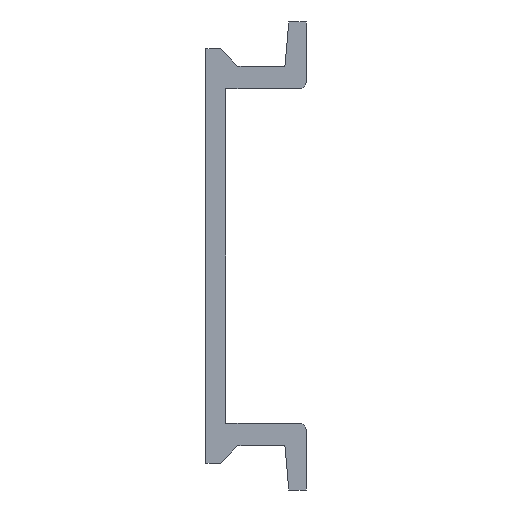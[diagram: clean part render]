
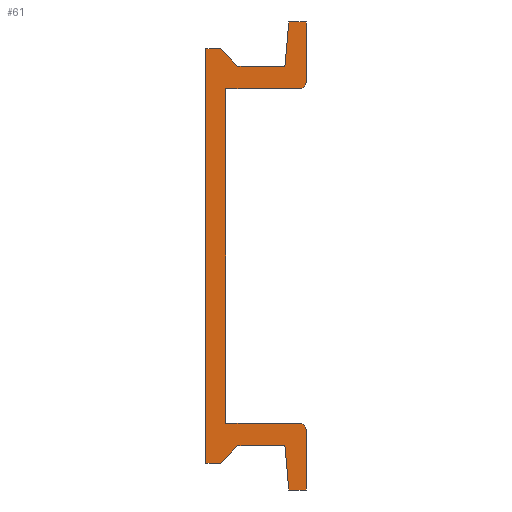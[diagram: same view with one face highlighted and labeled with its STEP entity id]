
A CAD part, left-side view. The second image highlights one B-rep face of the part: STEP entity #61.
In plain terms, the highlighted planar face has unit normal (-1, 0, 0).
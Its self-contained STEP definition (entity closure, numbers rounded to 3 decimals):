
#61=ADVANCED_FACE('',(#385),#384,.F.);
#384=PLANE('',#1280);
#385=FACE_OUTER_BOUND('',#1281,.T.);
#1277=CARTESIAN_POINT('',(0.,-8.25,21.));
#1278=DIRECTION('',(1.,0.,0.));
#1279=DIRECTION('',(0.,0.,-1.));
#1280=AXIS2_PLACEMENT_3D('',#1277,#1278,#1279);
#1281=EDGE_LOOP('',(#1902,#1903,#1904,#1905,#1906,#1907,#1908,#1909,#1910,#1911,#1912,#1913,#1914,#1915,#1916,#1917,#1918,#1919));
#1902=ORIENTED_EDGE('',*,*,#2223,.T.);
#1903=ORIENTED_EDGE('',*,*,#2227,.T.);
#1904=ORIENTED_EDGE('',*,*,#2423,.T.);
#1905=ORIENTED_EDGE('',*,*,#2420,.T.);
#1906=ORIENTED_EDGE('',*,*,#2417,.T.);
#1907=ORIENTED_EDGE('',*,*,#2414,.T.);
#1908=ORIENTED_EDGE('',*,*,#2411,.T.);
#1909=ORIENTED_EDGE('',*,*,#2408,.T.);
#1910=ORIENTED_EDGE('',*,*,#2405,.T.);
#1911=ORIENTED_EDGE('',*,*,#2402,.T.);
#1912=ORIENTED_EDGE('',*,*,#2325,.T.);
#1913=ORIENTED_EDGE('',*,*,#2322,.T.);
#1914=ORIENTED_EDGE('',*,*,#2319,.T.);
#1915=ORIENTED_EDGE('',*,*,#2316,.T.);
#1916=ORIENTED_EDGE('',*,*,#2313,.T.);
#1917=ORIENTED_EDGE('',*,*,#2310,.T.);
#1918=ORIENTED_EDGE('',*,*,#2307,.T.);
#1919=ORIENTED_EDGE('',*,*,#2304,.T.);
#2223=EDGE_CURVE('',#2546,#2547,#2548,.T.);
#2227=EDGE_CURVE('',#2547,#2574,#2575,.T.);
#2304=EDGE_CURVE('',#3111,#2546,#3112,.T.);
#2307=EDGE_CURVE('',#3131,#3111,#3132,.T.);
#2310=EDGE_CURVE('',#3151,#3131,#3152,.T.);
#2313=EDGE_CURVE('',#3171,#3151,#3172,.T.);
#2316=EDGE_CURVE('',#3191,#3171,#3192,.T.);
#2319=EDGE_CURVE('',#3211,#3191,#3212,.T.);
#2322=EDGE_CURVE('',#3231,#3211,#3232,.T.);
#2325=EDGE_CURVE('',#3251,#3231,#3252,.T.);
#2402=EDGE_CURVE('',#3788,#3251,#3789,.T.);
#2405=EDGE_CURVE('',#3808,#3788,#3809,.T.);
#2408=EDGE_CURVE('',#3828,#3808,#3829,.T.);
#2411=EDGE_CURVE('',#3848,#3828,#3849,.T.);
#2414=EDGE_CURVE('',#3868,#3848,#3869,.T.);
#2417=EDGE_CURVE('',#3888,#3868,#3889,.T.);
#2420=EDGE_CURVE('',#3908,#3888,#3909,.T.);
#2423=EDGE_CURVE('',#2574,#3908,#3928,.T.);
#2546=VERTEX_POINT('',#4407);
#2547=VERTEX_POINT('',#4408);
#2548=LINE('',#4409,#4410);
#2574=VERTEX_POINT('',#4423);
#2575=LINE('',#4424,#4425);
#3111=VERTEX_POINT('',#4766);
#3112=CIRCLE('',#4770,0.5);
#3131=VERTEX_POINT('',#4779);
#3132=LINE('',#4780,#4781);
#3151=VERTEX_POINT('',#4790);
#3152=LINE('',#4791,#4792);
#3171=VERTEX_POINT('',#4801);
#3172=LINE('',#4802,#4803);
#3191=VERTEX_POINT('',#4812);
#3192=LINE('',#4813,#4814);
#3211=VERTEX_POINT('',#4823);
#3212=LINE('',#4824,#4825);
#3231=VERTEX_POINT('',#4834);
#3232=LINE('',#4835,#4836);
#3251=VERTEX_POINT('',#4845);
#3252=LINE('',#4846,#4847);
#3788=VERTEX_POINT('',#5188);
#3789=LINE('',#5189,#5190);
#3808=VERTEX_POINT('',#5199);
#3809=LINE('',#5200,#5201);
#3828=VERTEX_POINT('',#5210);
#3829=LINE('',#5211,#5212);
#3848=VERTEX_POINT('',#5221);
#3849=LINE('',#5222,#5223);
#3868=VERTEX_POINT('',#5232);
#3869=LINE('',#5233,#5234);
#3888=VERTEX_POINT('',#5243);
#3889=LINE('',#5244,#5245);
#3908=VERTEX_POINT('',#5254);
#3909=CIRCLE('',#5258,0.5);
#3928=LINE('',#5267,#5268);
#4407=CARTESIAN_POINT('',(0.,-7.,-12.5));
#4408=CARTESIAN_POINT('',(0.,-1.5,-12.5));
#4409=CARTESIAN_POINT('',(0.,-7.,-12.5));
#4410=VECTOR('',#4411,5.5);
#4411=DIRECTION('',(0.,1.,0.));
#4423=CARTESIAN_POINT('',(0.,-1.5,12.5));
#4424=CARTESIAN_POINT('',(0.,-1.5,-12.5));
#4425=VECTOR('',#4426,25.);
#4426=DIRECTION('',(0.,0.,1.));
#4766=CARTESIAN_POINT('',(0.,-7.5,-13.));
#4767=CARTESIAN_POINT('',(0.,-7.,-13.));
#4768=DIRECTION('',(-1.,0.,0.));
#4769=DIRECTION('',(0.,0.,1.));
#4770=AXIS2_PLACEMENT_3D('',#4767,#4768,#4769);
#4779=CARTESIAN_POINT('',(0.,-7.5,-17.5));
#4780=CARTESIAN_POINT('',(0.,-7.5,-17.5));
#4781=VECTOR('',#4782,4.5);
#4782=DIRECTION('',(0.,0.,1.));
#4790=CARTESIAN_POINT('',(0.,-6.2,-17.5));
#4791=CARTESIAN_POINT('',(0.,-6.2,-17.5));
#4792=VECTOR('',#4793,1.3);
#4793=DIRECTION('',(0.,-1.,0.));
#4801=CARTESIAN_POINT('',(0.,-5.911,-14.2));
#4802=CARTESIAN_POINT('',(0.,-5.911,-14.2));
#4803=VECTOR('',#4804,3.313);
#4804=DIRECTION('',(0.,-0.087,-0.996));
#4812=CARTESIAN_POINT('',(0.,-2.4,-14.2));
#4813=CARTESIAN_POINT('',(0.,-2.4,-14.2));
#4814=VECTOR('',#4815,3.511);
#4815=DIRECTION('',(0.,-1.,0.));
#4823=CARTESIAN_POINT('',(0.,-1.1,-15.5));
#4824=CARTESIAN_POINT('',(0.,-1.1,-15.5));
#4825=VECTOR('',#4826,1.838);
#4826=DIRECTION('',(0.,-0.707,0.707));
#4834=CARTESIAN_POINT('',(0.,0.,-15.5));
#4835=CARTESIAN_POINT('',(0.,0.,-15.5));
#4836=VECTOR('',#4837,1.1);
#4837=DIRECTION('',(0.,-1.,0.));
#4845=CARTESIAN_POINT('',(0.,0.,15.5));
#4846=CARTESIAN_POINT('',(0.,0.,15.5));
#4847=VECTOR('',#4848,31.);
#4848=DIRECTION('',(0.,0.,-1.));
#5188=CARTESIAN_POINT('',(0.,-1.1,15.5));
#5189=CARTESIAN_POINT('',(0.,-1.1,15.5));
#5190=VECTOR('',#5191,1.1);
#5191=DIRECTION('',(0.,1.,0.));
#5199=CARTESIAN_POINT('',(0.,-2.4,14.2));
#5200=CARTESIAN_POINT('',(0.,-2.4,14.2));
#5201=VECTOR('',#5202,1.838);
#5202=DIRECTION('',(0.,0.707,0.707));
#5210=CARTESIAN_POINT('',(0.,-5.911,14.2));
#5211=CARTESIAN_POINT('',(0.,-5.911,14.2));
#5212=VECTOR('',#5213,3.511);
#5213=DIRECTION('',(0.,1.,0.));
#5221=CARTESIAN_POINT('',(0.,-6.2,17.5));
#5222=CARTESIAN_POINT('',(0.,-6.2,17.5));
#5223=VECTOR('',#5224,3.313);
#5224=DIRECTION('',(0.,0.087,-0.996));
#5232=CARTESIAN_POINT('',(0.,-7.5,17.5));
#5233=CARTESIAN_POINT('',(0.,-7.5,17.5));
#5234=VECTOR('',#5235,1.3);
#5235=DIRECTION('',(0.,1.,0.));
#5243=CARTESIAN_POINT('',(0.,-7.5,13.));
#5244=CARTESIAN_POINT('',(0.,-7.5,13.));
#5245=VECTOR('',#5246,4.5);
#5246=DIRECTION('',(0.,0.,1.));
#5254=CARTESIAN_POINT('',(0.,-7.,12.5));
#5255=CARTESIAN_POINT('',(0.,-7.,13.));
#5256=DIRECTION('',(-1.,0.,0.));
#5257=DIRECTION('',(0.,0.,1.));
#5258=AXIS2_PLACEMENT_3D('',#5255,#5256,#5257);
#5267=CARTESIAN_POINT('',(0.,-1.5,12.5));
#5268=VECTOR('',#5269,5.5);
#5269=DIRECTION('',(0.,-1.,0.));
